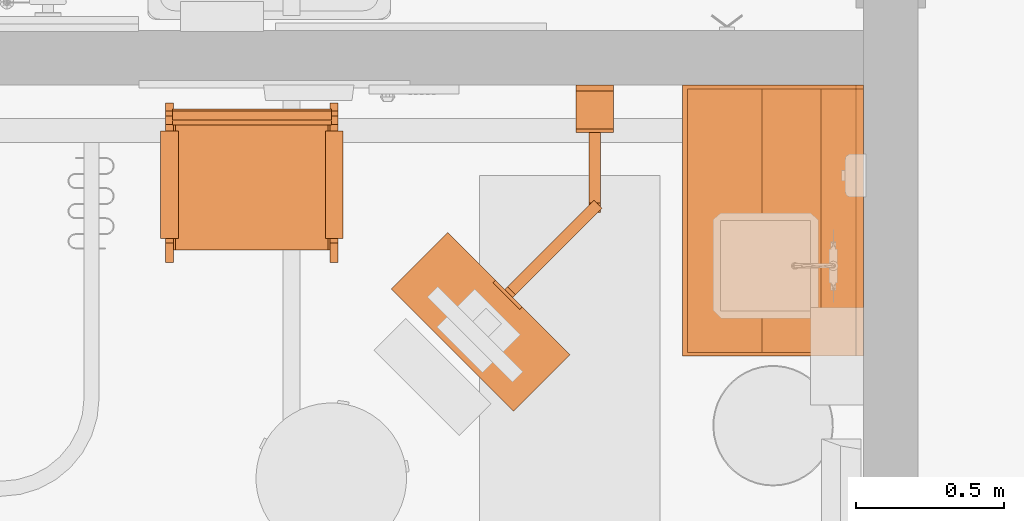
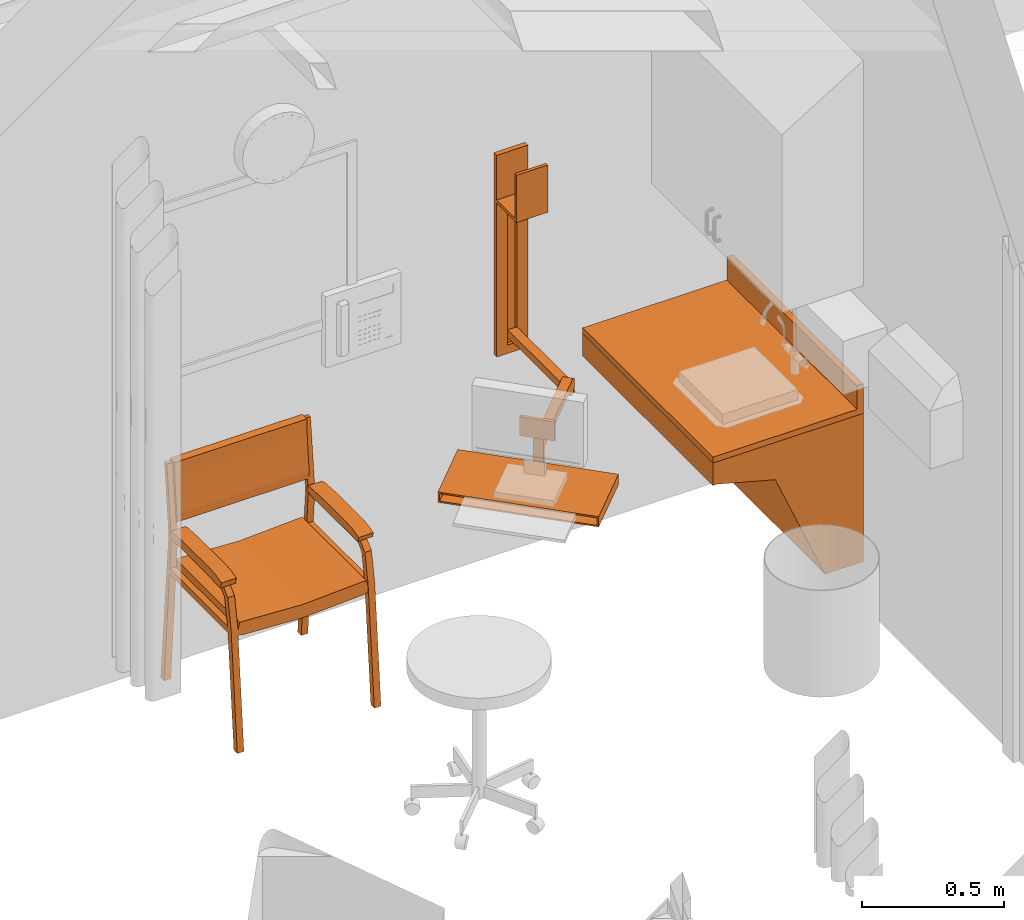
# One storey, part 49 of 142: 4 proxies.
"""IFC2X3 building model written with IfcOpenShell, lengths in feet."""

from ifc_helpers import new_model, entity, si_unit, converted_unit, derived_unit, direction, frame, frame_2d, origin, origin_2d_with_axis, place, context, subcontext, project, spatial, polyline, circle_curve, parameter, trimmed, segment, composite_curve, rectangle, circle, outline, extrude, source, transform, mapped, type_object, type_shapes, element, save


model = new_model("IFC2X3")

# Units and contexts
model_context = context("Model", 3, precision=0.0001, world=origin(), true_north=direction((6.12303176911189e-17, 1.0)))
body_context = subcontext(model_context, "Body", "Model", "MODEL_VIEW")
ifc_project = project(units=[converted_unit("LENGTHUNIT", "FOOT", entity("IfcRatioMeasure", 0.3048), si_unit("LENGTHUNIT", "METRE"), dimensions=[1, 0, 0, 0, 0, 0, 0]), converted_unit("AREAUNIT", "SQUARE FOOT", entity("IfcRatioMeasure", 0.09290304), si_unit("AREAUNIT", "SQUARE_METRE"), dimensions=[2, 0, 0, 0, 0, 0, 0]), converted_unit("VOLUMEUNIT", "CUBIC FOOT", entity("IfcRatioMeasure", 0.028316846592), si_unit("VOLUMEUNIT", "CUBIC_METRE"), dimensions=[3, 0, 0, 0, 0, 0, 0]), converted_unit("PLANEANGLEUNIT", "DEGREE", entity("IfcRatioMeasure", 0.0174532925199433), si_unit("PLANEANGLEUNIT", "RADIAN"), dimensions=[0, 0, 0, 0, 0, 0, 0]), si_unit("MASSUNIT", "GRAM", prefix="KILO"), derived_unit("MASSDENSITYUNIT", [(si_unit("MASSUNIT", "GRAM", prefix="KILO"), 1), (si_unit("LENGTHUNIT", "METRE"), -3)]), si_unit("TIMEUNIT", "SECOND"), si_unit("FREQUENCYUNIT", "HERTZ"), si_unit("THERMODYNAMICTEMPERATUREUNIT", "DEGREE_CELSIUS"), derived_unit("THERMALTRANSMITTANCEUNIT", [(si_unit("MASSUNIT", "GRAM", prefix="KILO"), 1), (si_unit("THERMODYNAMICTEMPERATUREUNIT", "KELVIN"), -1), (si_unit("TIMEUNIT", "SECOND"), -3)]), derived_unit("VOLUMETRICFLOWRATEUNIT", [(si_unit("LENGTHUNIT", "METRE"), 3), (si_unit("TIMEUNIT", "SECOND"), -1)]), si_unit("ELECTRICCURRENTUNIT", "AMPERE"), si_unit("ELECTRICVOLTAGEUNIT", "VOLT"), si_unit("POWERUNIT", "WATT"), si_unit("FORCEUNIT", "NEWTON"), si_unit("ILLUMINANCEUNIT", "LUX"), si_unit("LUMINOUSFLUXUNIT", "LUMEN"), si_unit("LUMINOUSINTENSITYUNIT", "CANDELA"), derived_unit("USERDEFINED", [(si_unit("MASSUNIT", "GRAM", prefix="KILO"), -1), (si_unit("LENGTHUNIT", "METRE"), -2), (si_unit("TIMEUNIT", "SECOND"), 3), (si_unit("LUMINOUSFLUXUNIT", "LUMEN"), 1)]), derived_unit("LINEARVELOCITYUNIT", [(si_unit("LENGTHUNIT", "METRE"), 1), (si_unit("TIMEUNIT", "SECOND"), -1)]), si_unit("PRESSUREUNIT", "PASCAL"), derived_unit("USERDEFINED", [(si_unit("LENGTHUNIT", "METRE"), -2), (si_unit("MASSUNIT", "GRAM", prefix="KILO"), 1), (si_unit("TIMEUNIT", "SECOND"), -2)])], contexts=[model_context])

# Site, building, storey, space
site_placement = place(None, origin())
site = spatial("IfcSite", under=ifc_project, at=site_placement, Name="Default", CompositionType="ELEMENT")
building_placement = place(site_placement, origin())
building = spatial("IfcBuilding", under=site, at=building_placement, Name="OUTPATIENT / PACT CLINIC (Ch. 265)", CompositionType="ELEMENT")
storey_placement = place(building_placement, origin())
storey = spatial("IfcBuildingStorey", under=building, at=storey_placement, Name="LEVEL 1", CompositionType="ELEMENT", Elevation=0.0)
space_placement = place(storey_placement, origin())
space = spatial("IfcSpace", under=storey, at=space_placement, Name="EXPA01", CompositionType="ELEMENT", InteriorOrExteriorSpace="INTERNAL")

# Proxies
building_element_proxy_type_1 = type_object("IfcBuildingElementProxyType", Name="M1803 - Workstation, Computer, Wall Mounted", PredefinedType="NOTDEFINED")
shared_shape_1 = source(origin(), body_context, "Body", "SweptSolid", [
    extrude(circle(Radius=0.104166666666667, at=frame_2d((1.0547118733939e-15, 3.336446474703e-16), x_axis=(1.0, 0.0))), frame((-0.0810226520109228, -1.34888430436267, 0.333333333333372), z_axis=(0.707106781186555, -0.70710678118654, 0.0), x_axis=(0.0, 0.0, 1.0)), (0.0, 0.0, 1.0), 0.125000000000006),
    extrude(outline(composite_curve([segment(polyline([(0.0520833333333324, -0.592708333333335), (0.0520833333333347, 0.644791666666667)]), True, "CONTINUOUS"), segment(polyline([(0.0520833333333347, 0.644791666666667), (-0.0520833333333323, 0.644791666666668)]), True, "CONTINUOUS"), segment(polyline([(-0.0520833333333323, 0.644791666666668), (-0.0520833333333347, -0.696875)]), True, "CONTINUOUS"), segment(trimmed(circle_curve(frame_2d((0.0520833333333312, -0.696875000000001), x_axis=(1.0, 0.0)), 0.104166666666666), [parameter(89.9999999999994)], [parameter(180.0)], True, "PARAMETER"), False, "CONTINUOUS")], self_intersect=False)), frame((-0.0624999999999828, -0.711458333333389, 0.281250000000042), z_axis=(-1.0, 0.0, 0.0), x_axis=(0.0, 0.0, 1.0)), (0.0, 0.0, -1.0), 0.125000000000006),
    extrude(outline(composite_curve([segment(polyline([(0.0520833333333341, -0.651041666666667), (0.0520833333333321, 0.598958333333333)]), True, "CONTINUOUS"), segment(polyline([(0.0520833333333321, 0.598958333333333), (-0.0520833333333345, 0.598958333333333)]), True, "CONTINUOUS"), segment(polyline([(-0.0520833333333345, 0.598958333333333), (-0.0520833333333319, -0.546875)]), True, "CONTINUOUS"), segment(trimmed(circle_curve(frame_2d((-0.0520833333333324, -0.651041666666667), x_axis=(1.0, 0.0)), 0.104166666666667), [parameter(1.01777749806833e-13)], [parameter(90.0000000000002)], True, "PARAMETER"), False, "CONTINUOUS")], self_intersect=False)), frame((-0.452990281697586, -1.89762862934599, 0.385416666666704), z_axis=(0.707106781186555, -0.70710678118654, 0.0), x_axis=(0.0, 0.0, 1.0)), (0.0, 0.0, -1.0), 0.125000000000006),
    extrude(outline(polyline([(-0.0729166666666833, -0.95833333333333), (0.0729166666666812, -0.95833333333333), (0.0729166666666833, 0.95833333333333), (-0.0729166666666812, 0.95833333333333), (-0.0729166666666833, -0.95833333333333)]), holes=[polyline([(-0.05208333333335, -0.937499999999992), (-0.052083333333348, 0.937499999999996), (0.0520833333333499, 0.937499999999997), (0.0520833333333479, -0.937499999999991), (-0.05208333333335, -0.937499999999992)])]), frame((-1.5747857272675, -2.93103572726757, 0.0729166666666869), z_axis=(0.707106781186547, 0.707106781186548, 0.0), x_axis=(0.0, 0.0, -1.0)), (0.0, 0.0, 1.0), 0.883333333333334),
    extrude(rectangle(XDim=0.0666666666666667, YDim=0.416666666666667, at=origin_2d_with_axis()), frame((0.0, -0.0333333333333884, 0.0), z_axis=(0.0, 0.0, 1.0), x_axis=(0.0, 1.0, 0.0)), (0.0, 0.0, 1.0), 0.11949518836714),
    extrude(outline(polyline([(-0.208333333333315, -0.0270833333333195), (-0.0625000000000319, -0.0270833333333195), (-0.0625000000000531, 0.014583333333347), (0.0625000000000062, 0.014583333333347), (0.0625000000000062, -0.0270833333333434), (0.208333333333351, -0.0270833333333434), (0.208333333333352, 0.0395833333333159), (-0.208333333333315, 0.0395833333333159), (-0.208333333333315, -0.0270833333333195)])), frame((0.0, -0.0395833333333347, 0.119495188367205)), (0.0, 0.0, 1.0), 2.0471714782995),
    extrude(outline(polyline([(-0.194444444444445, 0.125), (0.430555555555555, 0.125), (0.430555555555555, 0.166666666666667), (-0.236111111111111, 0.166666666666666), (-0.236111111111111, -0.291666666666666), (-0.194444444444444, -0.291666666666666), (-0.194444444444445, 0.125)])), frame((-0.208333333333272, -0.358333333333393, 2.40277777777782), z_axis=(1.0, 0.0, 0.0), x_axis=(0.0, 0.0, 1.0)), (0.0, 0.0, 1.0), 0.416666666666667),
    extrude(rectangle(XDim=0.0416666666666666, YDim=0.416666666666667, at=frame_2d((4.16333634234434e-17, -5.55111512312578e-17), x_axis=(1.0, 0.0))), frame((-0.964906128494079, -2.3211561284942, 0.503601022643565), z_axis=(0.0, 0.0, 1.0), x_axis=(0.707106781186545, 0.70710678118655, 0.0)), (0.0, 0.0, 1.0), 0.267232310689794),
    extrude(rectangle(XDim=0.125000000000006, YDim=0.0416666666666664, at=frame_2d((-1.94289029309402e-16, 1.16226472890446e-16), x_axis=(1.0, 0.0))), frame((-0.935443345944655, -2.29169334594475, 0.0), z_axis=(0.0, 0.0, 1.0), x_axis=(-0.707106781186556, 0.70710678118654, 0.0)), (0.0, 0.0, 1.0), 0.666666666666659),
    extrude(rectangle(XDim=0.0666666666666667, YDim=0.416666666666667, at=origin_2d_with_axis()), frame((0.0, -0.0333333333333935, 2.16666666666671), z_axis=(0.0, 0.0, 1.0), x_axis=(0.0, 1.0, 0.0)), (0.0, 0.0, 1.0), 0.666666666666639),
])
type_shapes(building_element_proxy_type_1, [shared_shape_1])
proxy_1_placement = place(space_placement, frame((400.489351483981, -887.024686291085, 2.83333333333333)))
element("IfcBuildingElementProxy", 1, at=proxy_1_placement, inside=space, type_object=building_element_proxy_type_1, Name="M1803 - Workstation, Computer, Wall Mounted1:M1803 - Workstation, Computer, Wall Mounted", ObjectType="M1803 - Workstation, Computer, Wall Mounted", context=body_context, shape_type="MappedRepresentation", body=[
    mapped(shared_shape_1, transform((0.0, 0.0, 0.0), scale=1.0)),
])
building_element_proxy_type_2 = type_object("IfcBuildingElementProxyType", Name="F0205 - Chair, Side With Arms", PredefinedType="NOTDEFINED")
shared_shape_2 = source(origin(), body_context, "Body", "SweptSolid", [
    extrude(outline(polyline([(-0.104007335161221, -0.374369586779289), (-0.027711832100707, -0.374369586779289), (-0.0197350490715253, -0.338348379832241), (0.00592434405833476, -0.182113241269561), (0.0162560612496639, -0.135457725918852), (0.0457826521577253, -0.00212284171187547), (0.0856087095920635, 0.177721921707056), (0.112798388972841, 0.276572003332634), (0.120257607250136, 0.307674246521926), (0.129202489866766, 0.415216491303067), (0.045581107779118, 0.433734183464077), (0.0167028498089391, 0.395704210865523), (-0.0364083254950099, 0.222671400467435), (-0.125070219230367, -0.177704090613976), (-0.13682888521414, -0.27538652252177), (-0.128352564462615, -0.36942248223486), (-0.104007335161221, -0.374369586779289)])), frame((-0.891159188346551, -0.878769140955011, 2.73061112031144), z_axis=(0.0, 1.0, 0.0), x_axis=(0.991475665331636, 0.0, -0.130291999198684)), (0.0, 0.0, 1.0), 1.75919993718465),
    extrude(outline(polyline([(0.0907668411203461, -0.842703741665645), (0.261538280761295, -0.842703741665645), (0.265730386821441, -0.773999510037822), (0.127479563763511, 0.0287496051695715), (-0.0923338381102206, 0.813085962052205), (-0.125373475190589, 0.873420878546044), (-0.279635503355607, 0.800086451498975), (-0.270660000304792, 0.752608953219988), (-0.0560029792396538, -0.0126173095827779), (0.0784907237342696, -0.795927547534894), (0.0907668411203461, -0.842703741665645)])), frame((-0.90556950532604, 0.000822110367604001, 1.62079321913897), z_axis=(1.0, 0.0, 0.0), x_axis=(0.0, -0.219936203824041, -0.975514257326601)), (0.0, 0.0, 1.0), 1.47211210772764),
    extrude(outline(polyline([(-0.552031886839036, -0.234422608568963), (-0.484734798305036, -0.234422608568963), (-0.233837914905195, -0.160903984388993), (0.324339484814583, 0.0422559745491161), (0.453697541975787, 0.101150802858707), (0.564536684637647, 0.176717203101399), (0.51204038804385, 0.250193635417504), (0.420212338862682, 0.216770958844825), (0.254858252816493, 0.145732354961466), (-0.246233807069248, -0.0366502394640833), (-0.436544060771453, -0.0986810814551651), (-0.576302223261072, -0.167740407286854), (-0.552031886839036, -0.234422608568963)])), frame((-0.1510824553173, -1.00916916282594, 2.22827697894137), z_axis=(0.0, 1.0, 0.0), x_axis=(0.939692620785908, 0.0, 0.34202014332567)), (0.0, 0.0, 1.0), 0.198199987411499),
    extrude(outline(polyline([(-0.525375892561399, -0.221085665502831), (-0.458078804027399, -0.221085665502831), (-0.207181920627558, -0.147567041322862), (0.350995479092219, 0.0555929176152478), (0.480353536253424, 0.114487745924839), (0.591192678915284, 0.190054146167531), (0.551062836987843, 0.246221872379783), (0.114629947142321, 0.0873732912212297), (0.281514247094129, 0.159069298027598), (-0.219577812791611, -0.0233132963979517), (-0.409888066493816, -0.0853441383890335), (-0.549646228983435, -0.154403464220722), (-0.525375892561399, -0.221085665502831)])), frame((-0.180692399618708, 0.814330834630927, 2.23169271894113), z_axis=(0.0, 1.0, 0.0), x_axis=(0.939692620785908, 0.0, 0.34202014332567)), (0.0, 0.0, 1.0), 0.196499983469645),
    extrude(outline(polyline([(0.0166377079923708, -0.666422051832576), (0.099971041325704, -0.666422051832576), (-0.0172324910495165, 0.673220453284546), (-0.0993762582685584, 0.659623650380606), (0.0166377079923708, -0.666422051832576)])), frame((-0.182442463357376, -0.954369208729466, 1.61480726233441), z_axis=(0.0, 1.0, 0.0), x_axis=(0.0871557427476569, 0.0, -0.996194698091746)), (0.0, 0.0, 1.0), 0.0833333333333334),
    extrude(outline(polyline([(0.0166377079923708, -0.666422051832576), (0.099971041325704, -0.666422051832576), (-0.0172324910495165, 0.673220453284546), (-0.0993762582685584, 0.659623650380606), (0.0166377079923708, -0.666422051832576)])), frame((-0.182442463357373, 0.867430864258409, 1.61480726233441), z_axis=(0.0, 1.0, 0.0), x_axis=(0.0871557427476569, 0.0, -0.996194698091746)), (0.0, 0.0, 1.0), 0.0833333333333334),
    extrude(outline(polyline([(0.811855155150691, -1.61770011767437), (0.895188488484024, -1.61770011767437), (0.71143329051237, 0.489199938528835), (0.806416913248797, 1.46713632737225), (0.751033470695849, 1.46713632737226), (0.656855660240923, 0.571094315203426), (-0.516612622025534, 0.571094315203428), (-0.653571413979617, 0.441277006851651), (-0.728375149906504, 0.0391907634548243), (-0.871611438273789, -1.61770011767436), (-0.791571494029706, -1.61770011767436), (-0.646611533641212, 0.0391998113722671), (-0.578172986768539, 0.407071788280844), (-0.496044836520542, 0.48919993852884), (0.649788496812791, 0.489199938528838), (0.811855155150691, -1.61770011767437)])), frame((-0.163768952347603, -0.954369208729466, 1.61770011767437), z_axis=(0.0, 1.0, 0.0), x_axis=(-1.0, 0.0, 0.0)), (0.0, 0.0, 1.0), 0.0885709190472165),
    extrude(outline(polyline([(0.811855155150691, -1.61770011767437), (0.895188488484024, -1.61770011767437), (0.71143329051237, 0.489199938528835), (0.806416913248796, 1.46713632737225), (0.751033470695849, 1.46713632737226), (0.656855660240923, 0.571094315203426), (-0.516612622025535, 0.571094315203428), (-0.653571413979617, 0.441277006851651), (-0.728375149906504, 0.0391907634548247), (-0.871611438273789, -1.61770011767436), (-0.791571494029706, -1.61770011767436), (-0.646611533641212, 0.0391998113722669), (-0.578172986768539, 0.407071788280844), (-0.496044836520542, 0.48919993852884), (0.649788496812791, 0.489199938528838), (0.811855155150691, -1.61770011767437)])), frame((-0.1637689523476, 0.867430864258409, 1.61770011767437), z_axis=(0.0, 1.0, 0.0), x_axis=(-1.0, 0.0, 0.0)), (0.0, 0.0, 1.0), 0.0885709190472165),
])
type_shapes(building_element_proxy_type_2, [shared_shape_2])
proxy_2_placement = place(space_placement, frame((396.692476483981, -888.279894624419, 0.0), z_axis=(0.0, 0.0, 1.0), x_axis=(0.0, -1.0, 0.0)))
element("IfcBuildingElementProxy", 2, at=proxy_2_placement, inside=space, type_object=building_element_proxy_type_2, Name="F0205 - Chair, Side With Arms:F0205 - Chair, Side With Arms", ObjectType="F0205 - Chair, Side With Arms", context=body_context, shape_type="MappedRepresentation", body=[
    mapped(shared_shape_2, transform((0.0, 0.0, 0.0), scale=1.0)),
])
building_element_proxy_type_3 = type_object("IfcBuildingElementProxyType", Name="CT020 - Countertop, Solid Surface - No Opening (1)", PredefinedType="NOTDEFINED")
shared_shape_3 = source(origin(), body_context, "Body", "SweptSolid", [
    extrude(rectangle(XDim=3.0, YDim=0.083333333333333, at=frame_2d((0.0, -5.55111512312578e-17), x_axis=(1.0, 0.0))), frame((0.0, 0.958333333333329, 0.0833333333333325)), (0.0, 0.0, 1.0), 0.333333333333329),
    extrude(rectangle(XDim=3.0, YDim=2.0, at=origin_2d_with_axis()), origin(), (0.0, 0.0, 1.0), 0.0833333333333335),
])
type_shapes(building_element_proxy_type_3, [shared_shape_3])
proxy_3_placement = place(space_placement, frame((402.463309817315, -888.524686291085, 2.70833333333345), z_axis=(0.0, 0.0, 1.0), x_axis=(0.0, -1.0, 0.0)))
element("IfcBuildingElementProxy", 3, at=proxy_3_placement, inside=space, type_object=building_element_proxy_type_3, Name="CT020 - Countertop, Solid Surface - No Opening (1):CT020 - Countertop, Solid Surface - No Opening (1)", ObjectType="CT020 - Countertop, Solid Surface - No Opening (1)", context=body_context, shape_type="MappedRepresentation", body=[
    mapped(shared_shape_3, transform((0.0, 0.0, 0.0), scale=1.0)),
])
building_element_proxy_type_4 = type_object("IfcBuildingElementProxyType", Name="24\"H x 24\"D x 36\"W", PredefinedType="NOTDEFINED")
shared_shape_4 = source(origin(), body_context, "Body", "SweptSolid", [
    extrude(outline(polyline([(-0.750382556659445, 0.0187614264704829), (0.944711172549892, 0.0187614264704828), (1.14381332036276, 0.488200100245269), (1.08627459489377, 0.51260389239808), (0.903330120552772, 0.081261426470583), (-0.774516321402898, 0.0812614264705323), (-1.30874051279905, -0.586799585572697), (-1.24448981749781, -0.614050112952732), (-0.750382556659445, 0.0187614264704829)])), frame((-1.45833333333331, -1.19293570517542, 1.67489402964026), z_axis=(1.0, 0.0, 0.0), x_axis=(0.0, 0.390460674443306, -0.920619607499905)), (0.0, 0.0, 1.0), 2.91666666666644),
    extrude(outline(polyline([(-1.24925608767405, -0.929380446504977), (0.834077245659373, -0.929380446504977), (0.834077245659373, 1.01791116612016), (0.519077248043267, 1.01791116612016), (0.311280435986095, 0.242403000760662), (-1.24925608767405, -0.41946443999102), (-1.24925608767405, -0.929380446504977)])), frame((-1.49999999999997, -1.2262554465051, 2.06175608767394), z_axis=(1.0, 0.0, 0.0), x_axis=(0.0, 0.0, 1.0)), (0.0, 0.0, 1.0), 0.0416666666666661),
    extrude(rectangle(XDim=3.0, YDim=0.0527083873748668, at=frame_2d((0.0, -2.22044604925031e-16), x_axis=(1.0, 0.0))), frame((0.0, -2.27052080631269, 2.58083333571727), z_axis=(0.0, 0.0, 1.0), x_axis=(-1.0, 0.0, 0.0)), (0.0, 0.0, 1.0), 0.314999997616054),
    extrude(outline(polyline([(-1.24925608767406, -0.929380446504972), (0.834077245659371, -0.929380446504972), (0.834077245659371, 1.01791116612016), (0.519077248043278, 1.01791116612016), (0.311280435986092, 0.24240300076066), (-1.24925608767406, -0.419464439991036), (-1.24925608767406, -0.929380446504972)])), frame((1.45833333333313, -1.22625544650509, 2.06175608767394), z_axis=(1.0, 0.0, 0.0), x_axis=(0.0, 0.0, 1.0)), (0.0, 0.0, 1.0), 0.0416666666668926),
])
type_shapes(building_element_proxy_type_4, [shared_shape_4])
proxy_4_placement = place(space_placement, frame((403.760184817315, -888.524686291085, -0.187499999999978), z_axis=(0.0, 0.0, 1.0), x_axis=(0.0, -1.0, 0.0)))
element("IfcBuildingElementProxy", 4, at=proxy_4_placement, inside=space, type_object=building_element_proxy_type_4, Name="Z1018 - Cabinet, ADA Sink Support:24\"H x 24\"D x 36\"W", ObjectType="24\"H x 24\"D x 36\"W", context=body_context, shape_type="MappedRepresentation", body=[
    mapped(shared_shape_4, transform((0.0, 0.0, 0.0), scale=1.0)),
])

save(model, "model.ifc")
